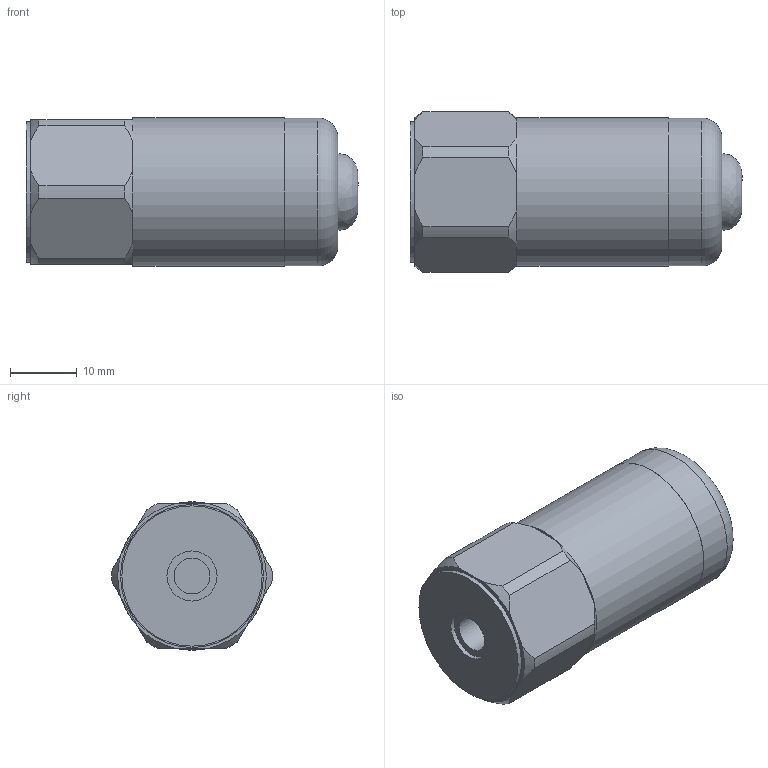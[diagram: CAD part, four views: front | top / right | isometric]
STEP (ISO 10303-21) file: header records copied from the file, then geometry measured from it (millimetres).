
FILE_DESCRIPTION(/* description */ (''),/* implementation_level */ '2;1');
FILE_NAME(/* name */ 'Z:\Engineering\Drawings\3D Library\Assemblies\Website\Premium Top\HS-150 Top Braided Cable\HS-150XXX0201.stp',/* time_stamp */ '2023-03-12T11:10:52+00:00',/* author */ ('Ricardo.Peneda'),/* organization */ (''),/* preprocessor_version */ 'ST-DEVELOPER v18.1',/* originating_system */ 'Autodesk Inventor 2021',/* authorisation */ '');
FILE_SCHEMA (('AUTOMOTIVE_DESIGN { 1 0 10303 214 3 1 1 }'));
Length unit declared in the file: inch
Products named in the file (1): HS-150XXX0201_Shrinkwrap_1
Bounding box: 49.7 x 23.99 x 22.2 mm (x, y, z)
Volume: 11928.6 mm3; surface area: 6738.2 mm2
Topology: 2 solids, 2 shells, 55 faces, 148 edges, 106 vertices
Faces by surface type: plane 25, cylinder 17, cone 11, torus 1, bspline 1
Full cylindrical faces by diameter (mm): 4.2 x1, 5.359 x1, 7.5 x1, 13.941 x1, 15.055 x1, 17.941 x1, 19.891 x1, 20 x1, 21 x1, 22.141 x1, 22.2 x1
Entity records: 1895 total; most frequent: CARTESIAN_POINT 383, DIRECTION 316, ORIENTED_EDGE 294, EDGE_CURVE 147, AXIS2_PLACEMENT_3D 138, VERTEX_POINT 106, CIRCLE 83, EDGE_LOOP 67
